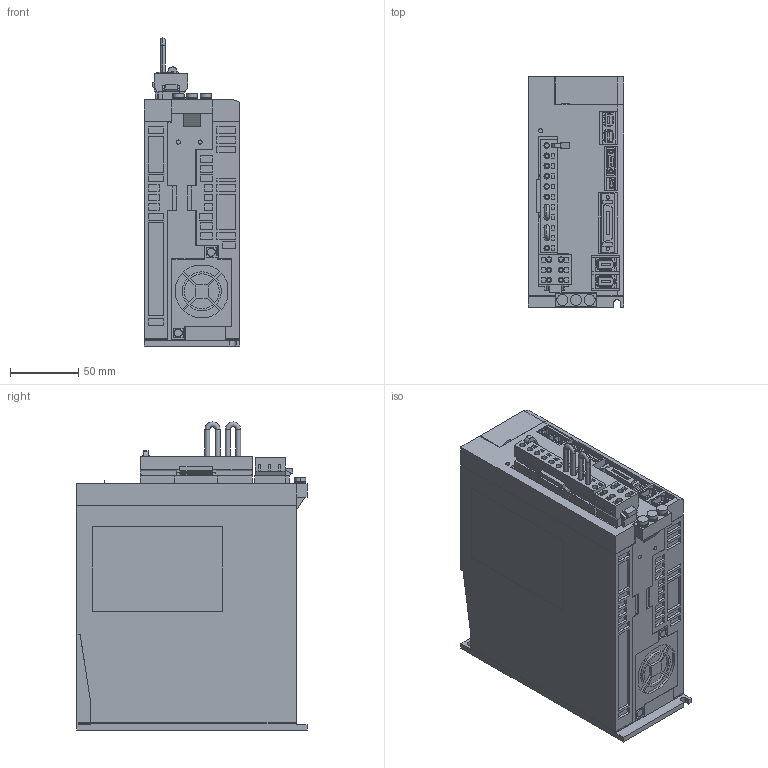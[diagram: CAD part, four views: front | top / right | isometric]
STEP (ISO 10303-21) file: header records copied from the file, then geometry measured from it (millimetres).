
FILE_DESCRIPTION (( 'STEP AP203' ), '1' );
FILE_NAME ('sgd7w_2r8a20a.STEP', '2014-03-06T04:32:09', ( '匠エンジニアリング山之内' ), ( 'TAKUMI-Engniaring' ), 'SwSTEP 2.0', 'SolidWorks 2006303', '' );
FILE_SCHEMA (( 'CONFIG_CONTROL_DESIGN' ));
Products named in the file (8): sgd7w_2r8a20a_cable; sgd7w_2r8a20a_connector_1; sgd7w_2r8a20a; sgd7w_2r8a20a_base; sgd7w_2r8a20a_connector; sgd7w_2r8a20a_connector_2; sgd7w_2r8a20a_pin; sgd7w_2r8a20a_cover
Assembly tree (8 placements, depth 3):
  sgd7w_2r8a20a
    sgd7w_2r8a20a_cover
    sgd7w_2r8a20a_connector
      sgd7w_2r8a20a_cable  x2
      sgd7w_2r8a20a_pin
      sgd7w_2r8a20a_connector_2
    sgd7w_2r8a20a_connector_1
    sgd7w_2r8a20a_base
Bounding box: 70 x 168 x 225 mm (x, y, z)
Volume: 2000633.9 mm3; surface area: 150310.3 mm2
Topology: 7 solids, 7 shells, 1783 faces, 4584 edges, 3014 vertices
Faces by surface type: plane 1598, cylinder 176, torus 4, cone 4, sphere 1
Entity records: 53722 total; most frequent: CARTESIAN_POINT 9337, ORIENTED_EDGE 9116, DIRECTION 8468, EDGE_CURVE 4558, LINE 4210, VECTOR 4210, VERTEX_POINT 2998, AXIS2_PLACEMENT_3D 2129
